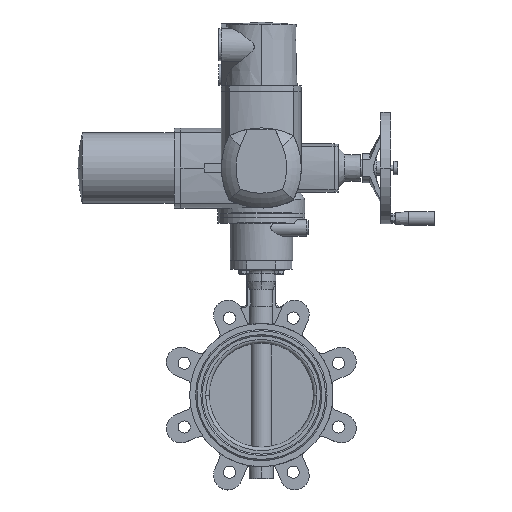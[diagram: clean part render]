
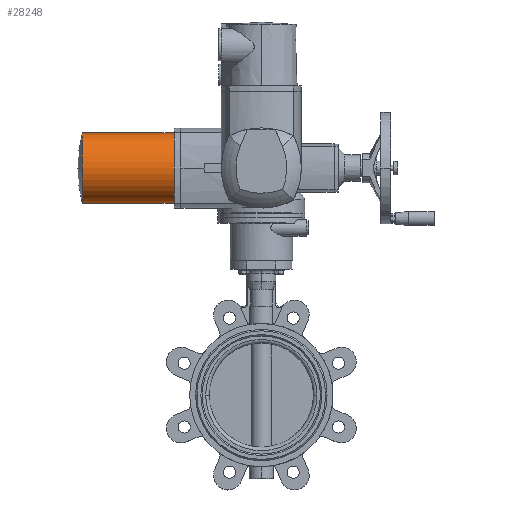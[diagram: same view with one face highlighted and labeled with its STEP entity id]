
A CAD part, top view. The second image highlights one B-rep face of the part: STEP entity #28248.
In plain terms, the highlighted cylindrical face has radius 50.5 mm (diameter 101 mm), a partial arc.
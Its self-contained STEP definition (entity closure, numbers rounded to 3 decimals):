
#125 = ORIENTED_EDGE ( 'NONE', *, *, #9898, .T. ) ;
#189 = VERTEX_POINT ( 'NONE', #11790 ) ;
#632 = EDGE_CURVE ( 'NONE', #24534, #189, #18044, .T. ) ;
#1363 = ORIENTED_EDGE ( 'NONE', *, *, #2971, .F. ) ;
#1857 = CARTESIAN_POINT ( 'NONE',  ( -257.519, -90.5, 133.5 ) ) ;
#2971 = EDGE_CURVE ( 'NONE', #9735, #12978, #10754, .T. ) ;
#3127 = LINE ( 'NONE', #17884, #7655 ) ;
#4465 = CARTESIAN_POINT ( 'NONE',  ( -97.021, -40., 133.5 ) ) ;
#4981 = AXIS2_PLACEMENT_3D ( 'NONE', #26735, #10530, #21863 ) ;
#5099 = VECTOR ( 'NONE', #13480, 1000. ) ;
#5163 = CIRCLE ( 'NONE', #22096, 50.5 ) ;
#7392 = CIRCLE ( 'NONE', #19004, 50.5 ) ;
#7655 = VECTOR ( 'NONE', #20327, 1000. ) ;
#9735 = VERTEX_POINT ( 'NONE', #22361 ) ;
#9898 = EDGE_CURVE ( 'NONE', #189, #16028, #3127, .T. ) ;
#10530 = DIRECTION ( 'NONE',  ( 1., 0., 0. ) ) ;
#10754 = LINE ( 'NONE', #20004, #5099 ) ;
#10976 = AXIS2_PLACEMENT_3D ( 'NONE', #4465, #15979, #27495 ) ;
#11775 = DIRECTION ( 'NONE',  ( 0., 0., 1. ) ) ;
#11790 = CARTESIAN_POINT ( 'NONE',  ( -257.519, -40., 83. ) ) ;
#12978 = VERTEX_POINT ( 'NONE', #19035 ) ;
#13480 = DIRECTION ( 'NONE',  ( 1., 0., 0. ) ) ;
#13701 = ORIENTED_EDGE ( 'NONE', *, *, #29339, .T. ) ;
#14526 = EDGE_CURVE ( 'NONE', #16028, #12978, #5163, .T. ) ;
#15386 = CYLINDRICAL_SURFACE ( 'NONE', #10976, 50.5 ) ;
#15723 = CARTESIAN_POINT ( 'NONE',  ( -257.519, -40., 133.5 ) ) ;
#15979 = DIRECTION ( 'NONE',  ( 1., 0., 0. ) ) ;
#16028 = VERTEX_POINT ( 'NONE', #16232 ) ;
#16232 = CARTESIAN_POINT ( 'NONE',  ( -125.5, -40., 83. ) ) ;
#16678 = EDGE_LOOP ( 'NONE', ( #13701, #25237, #125, #20138, #1363 ) ) ;
#17884 = CARTESIAN_POINT ( 'NONE',  ( -97.021, -40., 83. ) ) ;
#17952 = FACE_OUTER_BOUND ( 'NONE', #16678, .T. ) ;
#18044 = CIRCLE ( 'NONE', #4981, 50.5 ) ;
#19004 = AXIS2_PLACEMENT_3D ( 'NONE', #15723, #27839, #11775 ) ;
#19035 = CARTESIAN_POINT ( 'NONE',  ( -125.5, -40., 184. ) ) ;
#19495 = CARTESIAN_POINT ( 'NONE',  ( -125.5, -40., 133.5 ) ) ;
#20004 = CARTESIAN_POINT ( 'NONE',  ( -97.021, -40., 184. ) ) ;
#20138 = ORIENTED_EDGE ( 'NONE', *, *, #14526, .T. ) ;
#20327 = DIRECTION ( 'NONE',  ( 1., 0., 0. ) ) ;
#21744 = DIRECTION ( 'NONE',  ( -1., 0., 0. ) ) ;
#21863 = DIRECTION ( 'NONE',  ( 0., 0., 1. ) ) ;
#22096 = AXIS2_PLACEMENT_3D ( 'NONE', #19495, #21744, #28725 ) ;
#22361 = CARTESIAN_POINT ( 'NONE',  ( -257.519, -40., 184. ) ) ;
#24534 = VERTEX_POINT ( 'NONE', #1857 ) ;
#25237 = ORIENTED_EDGE ( 'NONE', *, *, #632, .T. ) ;
#26735 = CARTESIAN_POINT ( 'NONE',  ( -257.519, -40., 133.5 ) ) ;
#27495 = DIRECTION ( 'NONE',  ( 0., 0., 1. ) ) ;
#27839 = DIRECTION ( 'NONE',  ( 1., 0., 0. ) ) ;
#28248 = ADVANCED_FACE ( 'NONE', ( #17952 ), #15386, .T. ) ;
#28725 = DIRECTION ( 'NONE',  ( 0., 0., -1. ) ) ;
#29339 = EDGE_CURVE ( 'NONE', #9735, #24534, #7392, .T. ) ;
